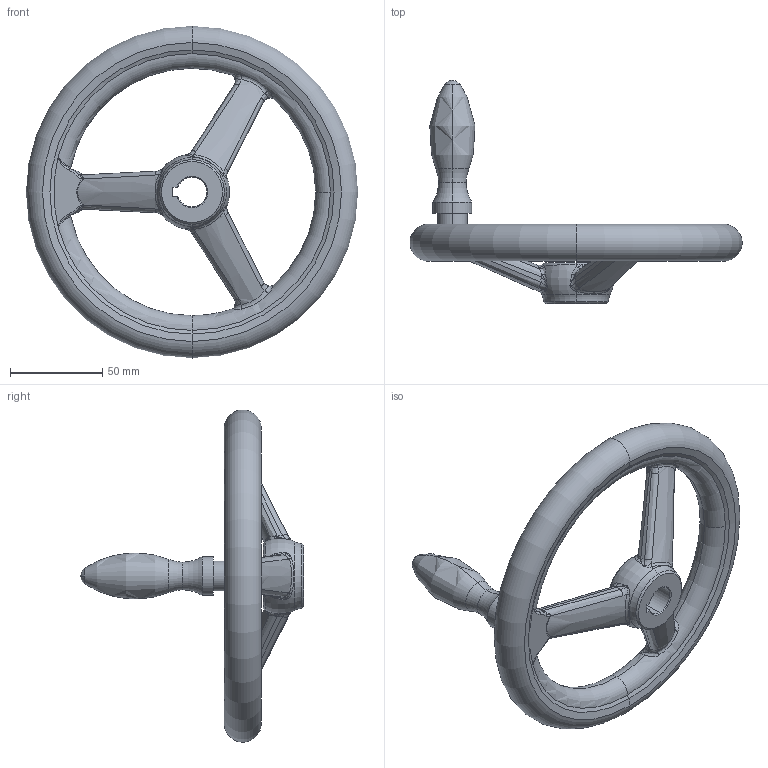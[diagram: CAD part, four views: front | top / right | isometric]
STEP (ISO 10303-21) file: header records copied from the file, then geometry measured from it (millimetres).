
FILE_DESCRIPTION (( 'STEP AP203' ), '1' );
FILE_NAME ('din950_f3_180x16.step', '2010-03-23T10:23:29', ( '_' ), ( '_' ), 'SwSTEP 2.0', 'SolidWorks 2010', '' );
FILE_SCHEMA (( 'CONFIG_CONTROL_DESIGN' ));
Length unit declared in the file: millimetre
Products named in the file (1): din950_f3_180x16
Bounding box: 179.93 x 121 x 179.93 mm (x, y, z)
Volume: 251321.5 mm3; surface area: 50990 mm2
Topology: 1 solids, 1 shells, 204 faces, 505 edges, 272 vertices
Faces by surface type: bspline 130, torus 27, cone 18, plane 15, cylinder 12, sphere 2
Entity records: 26790 total; most frequent: CARTESIAN_POINT 22836, ORIENTED_EDGE 958, DIRECTION 566, EDGE_CURVE 479, VERTEX_POINT 272, AXIS2_PLACEMENT_3D 265, B_SPLINE_CURVE_WITH_KNOTS 249, EDGE_LOOP 207
